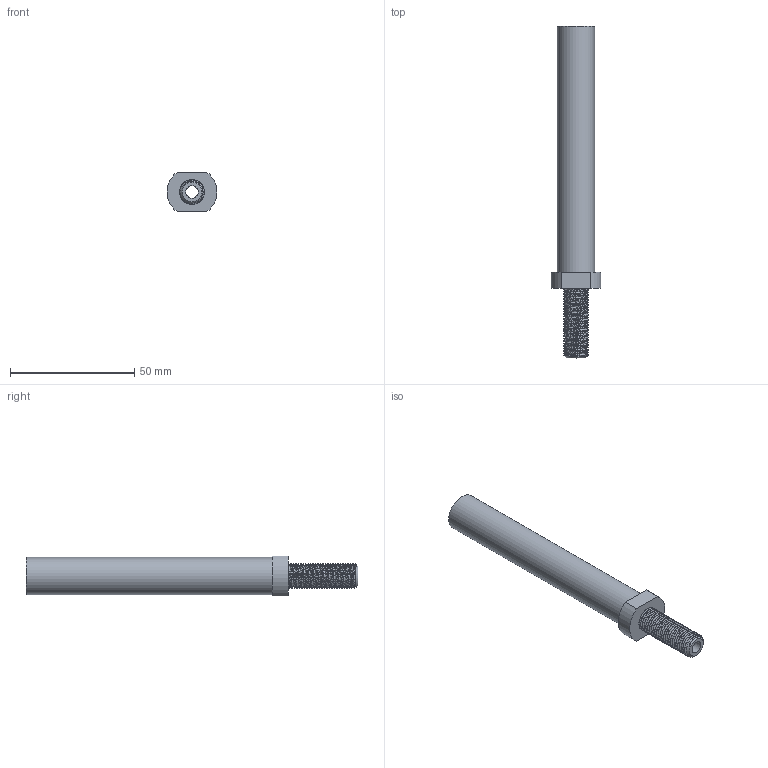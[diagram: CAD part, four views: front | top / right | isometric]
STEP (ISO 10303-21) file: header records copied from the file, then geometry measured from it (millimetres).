
FILE_DESCRIPTION(/* description */ (''),/* implementation_level */ '2;1');
FILE_NAME(/* name */ '100x15 disc hub to 120mm FG Axle.step',/* time_stamp */ '2025-11-18T18:58:16-08:00',/* author */ (''),/* organization */ (''),/* preprocessor_version */ 'ST-DEVELOPER v20.1',/* originating_system */ 'Autodesk Translation Framework v14.21.0.0',/* authorisation */ '');
FILE_SCHEMA (('AUTOMOTIVE_DESIGN { 1 0 10303 214 3 1 1 }'));
Length unit declared in the file: millimetre
Products named in the file (1): 100/12 disc hub to 120mm FG Axle
Bounding box: 19.93 x 133.5 x 16 mm (x, y, z)
Volume: 12077.6 mm3; surface area: 10961.1 mm2
Topology: 1 solids, 1 shells, 92 faces, 264 edges, 176 vertices
Faces by surface type: cylinder 79, plane 7, bspline 5, cone 1
Full cylindrical faces by diameter (mm): 5 x1, 8.744 x26, 9.884 x26, 10.274 x8, 12.226 x8, 14.95 x1
Entity records: 11458 total; most frequent: CARTESIAN_POINT 9318, ORIENTED_EDGE 528, DIRECTION 303, EDGE_CURVE 264, VERTEX_POINT 176, B_SPLINE_CURVE_WITH_KNOTS 159, AXIS2_PLACEMENT_3D 110, EDGE_LOOP 96
